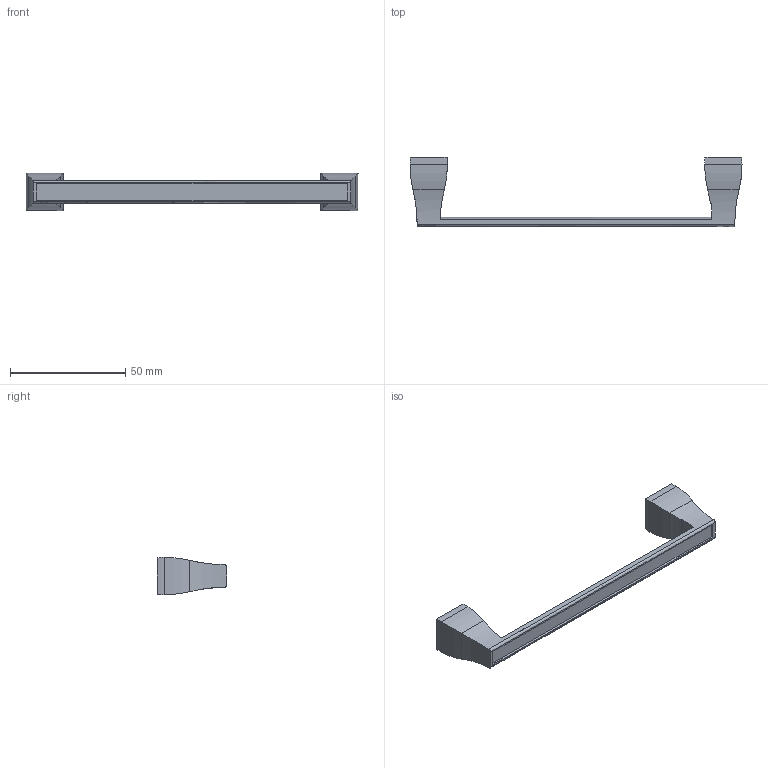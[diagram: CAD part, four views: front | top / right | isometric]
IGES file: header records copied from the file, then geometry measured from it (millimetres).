
Start section: Data from Parasolid IGES Translator 15.0.47, Copyright(c) 2006 Siemens P LM Software. All Rights Reserved.
Global section: file name: 115263.igs; native system:  By UGS Corp.; preprocessor: XPlus GENERIC/IGES 3.0; author: Noname; organization: Noname; date: 20140122.103637; units: millimetre
Bounding box: 144.19 x 30 x 16.19 mm (x, y, z)
Surface area: 7285.4 mm2 (no closed solid volume)
Topology: 0 solids, 0 shells, 38 faces, 176 edges, 174 vertices
Faces by surface type: revolution 26, extrusion 12
